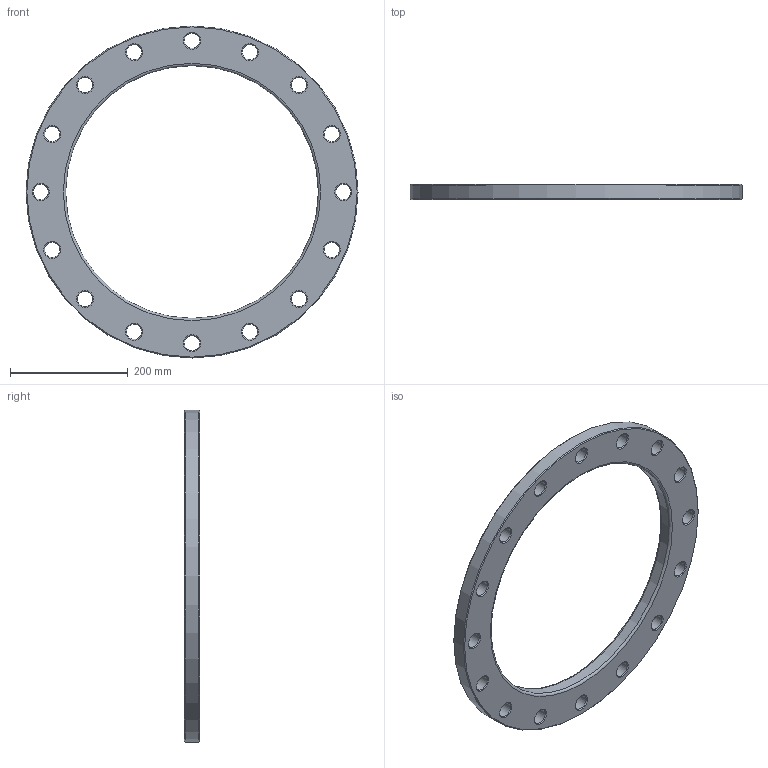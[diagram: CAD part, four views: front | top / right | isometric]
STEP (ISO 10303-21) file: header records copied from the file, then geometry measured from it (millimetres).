
FILE_DESCRIPTION(/* description */ ('Unknown'),/* implementation_level */ '2;1');
FILE_NAME(/* name */ 'FZ400B',/* time_stamp */ '2021-03-15T10:53:01+01:00',/* author */ ('Unknown'),/* organization */ ('Unknown'),/* preprocessor_version */ 'ST-DEVELOPER v16.7',/* originating_system */ 'Solid Edge',/* authorisation */ 'Unknown');
FILE_SCHEMA (('AUTOMOTIVE_DESIGN {1 0 10303 214 3 1 1}'));
Length unit declared in the file: millimetre
Products named in the file (1): FZ400B
Bounding box: 565 x 26 x 565 mm (x, y, z)
Volume: 2505741.5 mm3; surface area: 299307.6 mm2
Topology: 1 solids, 1 shells, 56 faces, 174 edges, 120 vertices
Faces by surface type: cone 34, cylinder 18, plane 2, torus 2
Full cylindrical faces by diameter (mm): 26 x16, 430 x1, 565 x1
Entity records: 1382 total; most frequent: DIRECTION 258, CARTESIAN_POINT 201, ORIENTED_EDGE 144, EDGE_LOOP 144, FACE_BOUND 144, AXIS2_PLACEMENT_3D 129, EDGE_CURVE 72, VERTEX_POINT 72
